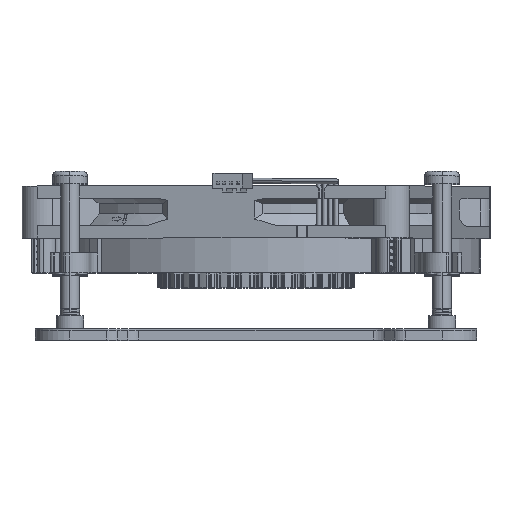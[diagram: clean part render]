
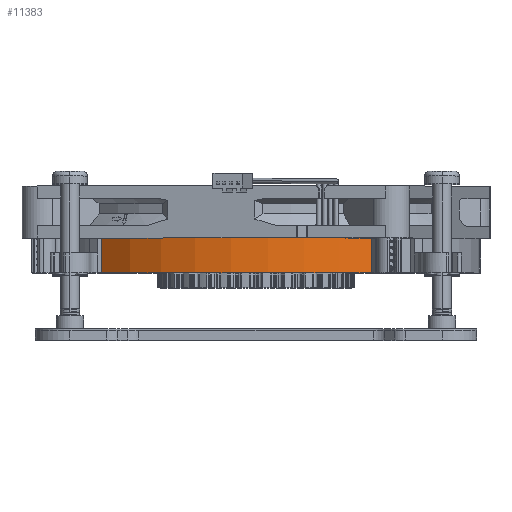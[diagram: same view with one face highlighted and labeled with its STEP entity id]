
A CAD part, top view. The second image highlights one B-rep face of the part: STEP entity #11383.
In plain terms, the highlighted cylindrical face has radius 45.1 mm (diameter 90.2 mm), a partial arc.
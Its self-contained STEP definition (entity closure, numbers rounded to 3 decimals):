
#252=CARTESIAN_POINT('',(1463.353,692.972,0.));
#253=DIRECTION('',(0.,-1.,0.));
#254=DIRECTION('',(0.515,0.,0.857));
#255=AXIS2_PLACEMENT_3D('',#252,#253,#254);
#679=CARTESIAN_POINT('',(1463.353,685.972,0.));
#680=DIRECTION('',(0.,-1.,0.));
#681=DIRECTION('',(0.515,0.,0.857));
#682=AXIS2_PLACEMENT_3D('',#679,#680,#681);
#7703=DIRECTION('',(0.,-1.,0.));
#7704=VECTOR('',#7703,7.);
#7705=CARTESIAN_POINT('',(1432.178,692.972,32.59));
#7706=LINE('',#7705,#7704);
#7844=DIRECTION('',(0.,-1.,0.));
#7845=VECTOR('',#7844,7.);
#7846=CARTESIAN_POINT('',(1486.581,692.972,38.659));
#7847=LINE('',#7846,#7845);
#10532=CARTESIAN_POINT('',(1486.581,692.972,38.659));
#10533=CARTESIAN_POINT('',(1486.581,685.972,38.659));
#10534=VERTEX_POINT('',#10532);
#10535=VERTEX_POINT('',#10533);
#10860=CARTESIAN_POINT('',(1432.178,692.972,32.59));
#10861=CARTESIAN_POINT('',(1432.178,685.972,32.59));
#10862=VERTEX_POINT('',#10860);
#10863=VERTEX_POINT('',#10861);
#11369=CARTESIAN_POINT('',(1463.353,685.972,0.));
#11370=DIRECTION('',(0.,-1.,0.));
#11371=DIRECTION('',(1.,0.,0.));
#11372=AXIS2_PLACEMENT_3D('',#11369,#11370,#11371);
#11373=CYLINDRICAL_SURFACE('',#11372,45.1);
#11375=ORIENTED_EDGE('',*,*,#11374,.T.);
#11377=ORIENTED_EDGE('',*,*,#11376,.T.);
#11379=ORIENTED_EDGE('',*,*,#11378,.F.);
#11380=ORIENTED_EDGE('',*,*,#11227,.F.);
#11381=EDGE_LOOP('',(#11375,#11377,#11379,#11380));
#11382=FACE_OUTER_BOUND('',#11381,.F.);
#11383=ADVANCED_FACE('',(#11382),#11373,.T.);
#256=CIRCLE('',#255,45.1);
#683=CIRCLE('',#682,45.1);
#11227=EDGE_CURVE('',#10534,#10862,#256,.T.);
#11374=EDGE_CURVE('',#10534,#10535,#7847,.T.);
#11376=EDGE_CURVE('',#10535,#10863,#683,.T.);
#11378=EDGE_CURVE('',#10862,#10863,#7706,.T.);
